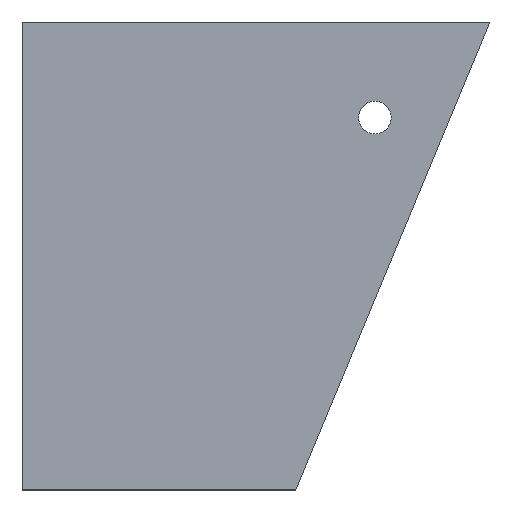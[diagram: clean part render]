
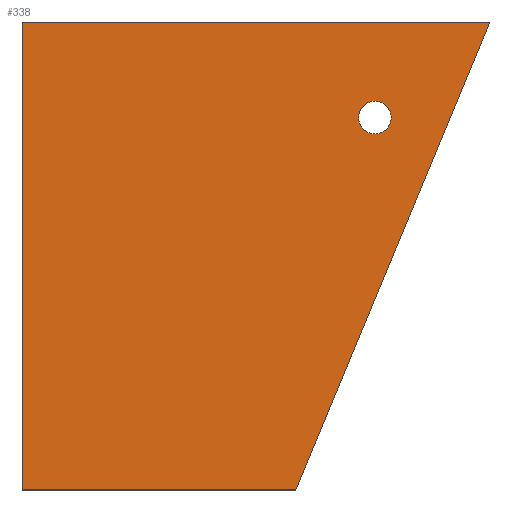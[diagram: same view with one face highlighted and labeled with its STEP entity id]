
A CAD part, top view. The second image highlights one B-rep face of the part: STEP entity #338.
In plain terms, the highlighted planar face has unit normal (0, 0, 1).
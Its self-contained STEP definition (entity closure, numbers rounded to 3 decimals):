
#163=CIRCLE('',#324,7.);
#169=ORIENTED_EDGE('',*,*,#231,.T.);
#170=ORIENTED_EDGE('',*,*,#232,.F.);
#171=ORIENTED_EDGE('',*,*,#227,.F.);
#172=ORIENTED_EDGE('',*,*,#233,.T.);
#173=ORIENTED_EDGE('',*,*,#234,.F.);
#193=VECTOR('',#263,1.);
#197=VECTOR('',#269,1.);
#198=VECTOR('',#270,1.);
#199=VECTOR('',#271,1.);
#205=LINE('',#294,#193);
#209=LINE('',#303,#197);
#210=LINE('',#304,#198);
#211=LINE('',#305,#199);
#217=VERTEX_POINT('',#292);
#218=VERTEX_POINT('',#293);
#221=VERTEX_POINT('',#301);
#222=VERTEX_POINT('',#302);
#223=VERTEX_POINT('',#306);
#227=EDGE_CURVE('',#217,#218,#205,.T.);
#231=EDGE_CURVE('',#221,#222,#209,.T.);
#232=EDGE_CURVE('',#218,#222,#210,.T.);
#233=EDGE_CURVE('',#217,#221,#211,.T.);
#234=EDGE_CURVE('',#223,#223,#163,.T.);
#242=EDGE_LOOP('',(#169,#170,#171,#172));
#243=EDGE_LOOP('',(#173));
#252=FACE_BOUND('',#242,.T.);
#253=FACE_BOUND('',#243,.T.);
#263=DIRECTION('',(-116.999,0.,0.));
#267=DIRECTION('',(0.,0.,1.));
#268=DIRECTION('',(0.,-1.,0.));
#269=DIRECTION('',(-199.842,0.,0.));
#270=DIRECTION('',(0.,200.,0.));
#271=DIRECTION('',(82.843,200.,0.));
#272=DIRECTION('',(0.,0.,1.));
#273=DIRECTION('',(0.,-7.,0.));
#292=CARTESIAN_POINT('',(116.999,-200.,10.));
#293=CARTESIAN_POINT('',(0.,-200.,10.));
#294=CARTESIAN_POINT('',(116.999,-200.,10.));
#300=CARTESIAN_POINT('',(159.762,0.,10.));
#301=CARTESIAN_POINT('',(199.842,0.,10.));
#302=CARTESIAN_POINT('',(0.,0.,10.));
#303=CARTESIAN_POINT('',(199.842,0.,10.));
#304=CARTESIAN_POINT('',(0.,-200.,10.));
#305=CARTESIAN_POINT('',(116.999,-200.,10.));
#306=CARTESIAN_POINT('',(150.7,-47.858,10.));
#307=CARTESIAN_POINT('',(150.7,-40.858,10.));
#323=AXIS2_PLACEMENT_3D('',#300,#267,#268);
#324=AXIS2_PLACEMENT_3D('',#307,#272,#273);
#332=PLANE('',#323);
#338=ADVANCED_FACE('',(#252,#253),#332,.T.);
